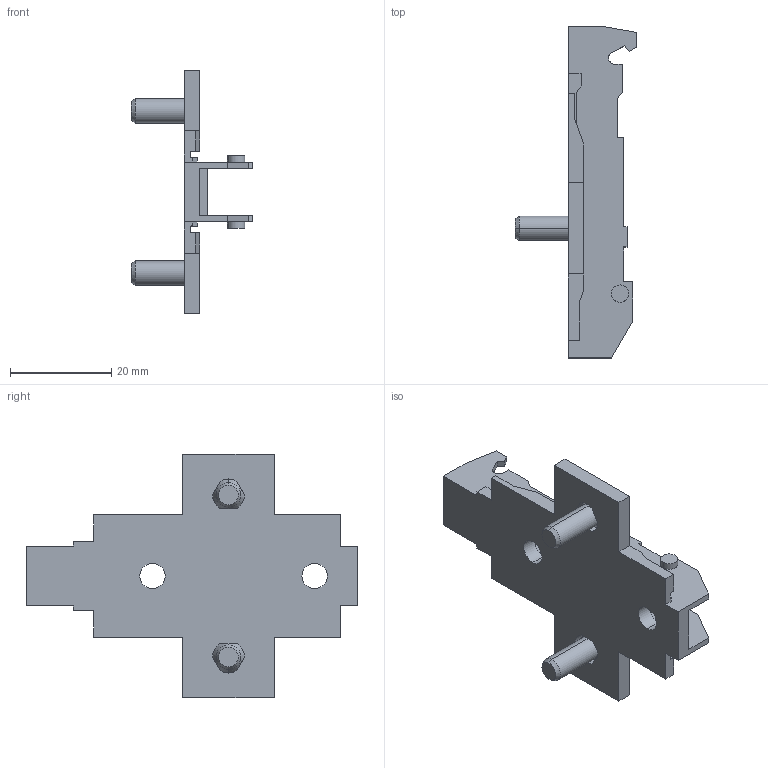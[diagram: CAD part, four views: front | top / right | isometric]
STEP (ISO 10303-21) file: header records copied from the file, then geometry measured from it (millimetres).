
FILE_DESCRIPTION (( 'STEP AP214' ), '1' );
FILE_NAME ('1D_Kreuzmontageplatte 37_32_Euro_vorgestellt 13,5_3.step', '2010-11-18T10:19:34', ( 'grass' ), ( '' ), 'SwSTEP 2.0', 'SolidWorks 2010', '' );
FILE_SCHEMA (( 'AUTOMOTIVE_DESIGN' ));
Length unit declared in the file: millimetre
Products named in the file (1): 1D_Kreuzmontageplatte 37_32_Euro_vorgestellt 13,5_3
Bounding box: 24 x 65.5 x 48 mm (x, y, z)
Volume: 6627.5 mm3; surface area: 7229.9 mm2
Topology: 1 solids, 1 shells, 142 faces, 406 edges, 264 vertices
Faces by surface type: plane 96, cylinder 34, cone 12
Entity records: 4708 total; most frequent: CARTESIAN_POINT 905, ORIENTED_EDGE 812, DIRECTION 752, EDGE_CURVE 406, LINE 306, VECTOR 306, VERTEX_POINT 264, AXIS2_PLACEMENT_3D 223
